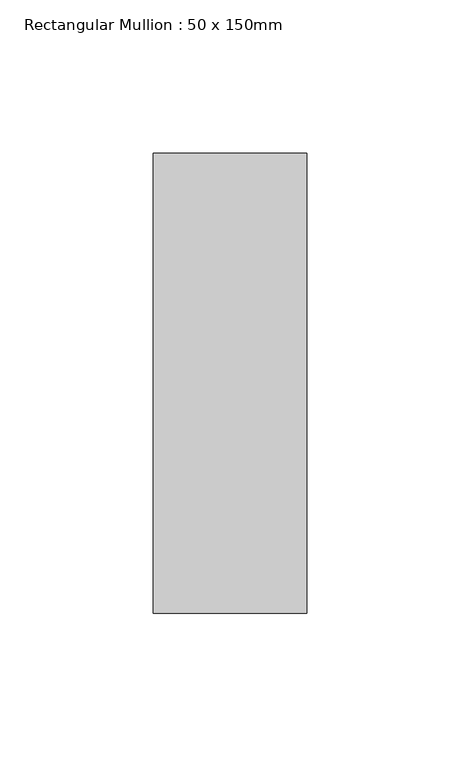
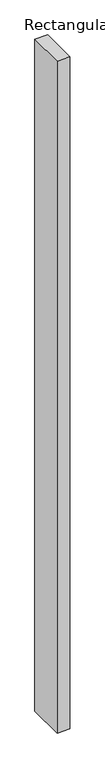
"""IFC4 building model written with IfcOpenShell, lengths in millimetres: member geometry, Rectangular Mullion : 50 x 150mm."""

from ifc_helpers import new_model, si_unit, frame, origin, place, context, project, spatial, polyline, outline, extrude, source, transform, mapped, element, save


def rectangular_mullion_50_x_150mm_567c0dda(model_context):
    return source(origin(), model_context, "Body", "SweptSolid", [
        extrude(outline(polyline([(25.0, 75.0), (25.0, -75.0), (-25.0, -75.0), (-25.0, 75.0), (25.0, 75.0)])), frame((0.0, 0.0, -2775.0), z_axis=(0.0, 0.0, 1.0), x_axis=(1.0, 0.0, 0.0)), (0.0, 0.0, 1.0), 2775.0),
    ])


if __name__ == "__main__":
    model = new_model("IFC4")
    model_context = context("Model", 3, world=origin())
    ifc_project = project(units=[si_unit("LENGTHUNIT", "METRE", prefix="MILLI")], contexts=[model_context])
    site = spatial("IfcSite", under=ifc_project)
    building = spatial("IfcBuilding", under=site)
    placement = place(None, origin())
    rectangular_mullion_50_x_150mm_shape = rectangular_mullion_50_x_150mm_567c0dda(model_context)
    element("IfcMember", 1, ObjectType="Rectangular Mullion : 50 x 150mm", at=placement, inside=building, context=model_context, shape_type="MappedRepresentation", body=[
        mapped(rectangular_mullion_50_x_150mm_shape, transform((0.0, 0.0, 0.0), x_axis=(1.0, 0.0, 0.0), y_axis=(0.0, 1.0, 0.0), z_axis=(0.0, 0.0, 1.0))),
    ])
    save(model, "model.ifc")
